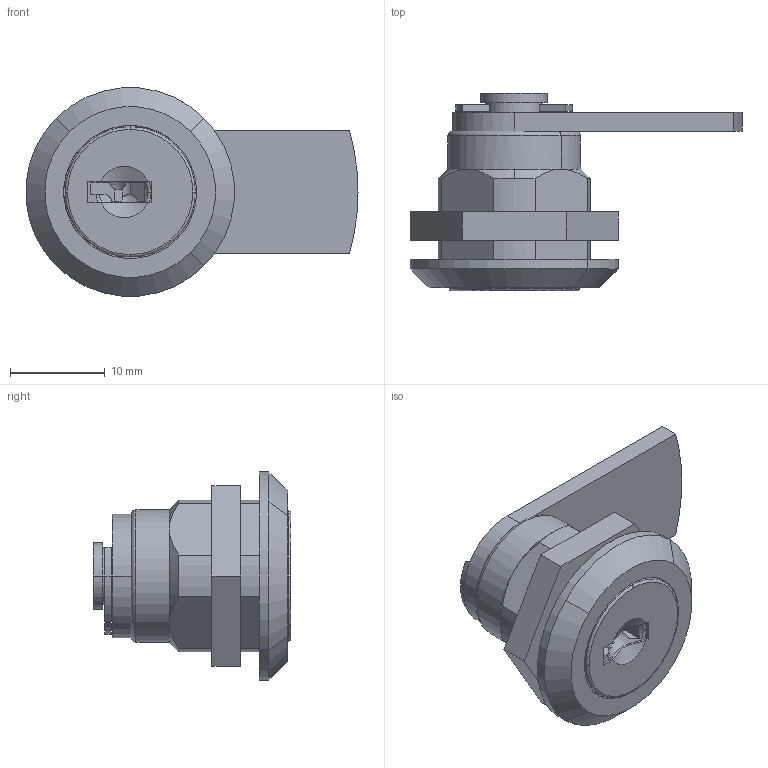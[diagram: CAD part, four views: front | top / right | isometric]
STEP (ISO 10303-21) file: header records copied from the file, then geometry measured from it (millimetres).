
FILE_DESCRIPTION((''),'2;1');
FILE_NAME('DA 22-01.stp','2015-08-14T14:20:01',(''),(''),'Mechanical Desktop 2006','Mechanical Desktop 2006',', , ');
FILE_SCHEMA(('CONFIG_CONTROL_DESIGN'));
Length unit declared in the file: millimetre
Products named in the file (9): DA-22-01; 1022-U17_ASM; 1022-12-01; 1108-U13_ASM; 1108-07-08; 1108-04-04; 1022-05; 1022-21; D6799_6
Assembly tree (8 placements, depth 4):
  DA-22-01
    1022-U17_ASM
      1022-12-01
      1108-U13_ASM
        1108-07-08
        1108-04-04
      1022-05
      1022-21
      D6799_6
Bounding box: 34.97 x 20.8 x 21.92 mm (x, y, z)
Volume: 3758.2 mm3; surface area: 5424.5 mm2
Topology: 6 solids, 6 shells, 331 faces, 942 edges, 622 vertices
Faces by surface type: plane 203, cylinder 97, torus 16, cone 15
Entity records: 11302 total; most frequent: CARTESIAN_POINT 2190, DIRECTION 1915, ORIENTED_EDGE 1884, EDGE_CURVE 942, AXIS2_PLACEMENT_3D 665, VERTEX_POINT 622, VECTOR 585, LINE 585
